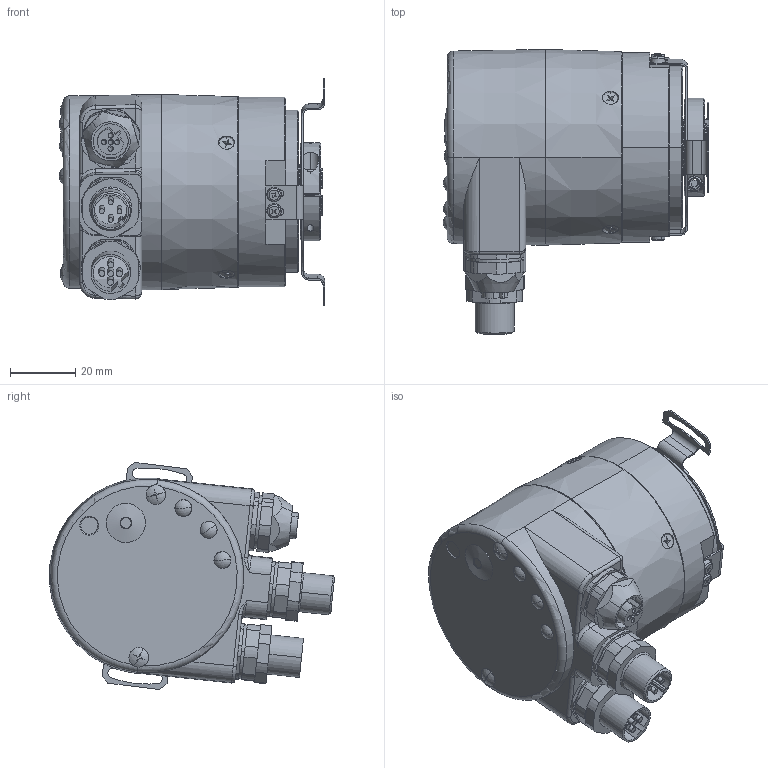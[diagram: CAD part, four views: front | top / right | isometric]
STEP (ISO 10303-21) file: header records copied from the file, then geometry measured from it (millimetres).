
FILE_DESCRIPTION (( 'STEP AP214' ), '1' );
FILE_NAME ('5878.5432.XXXX.STEP', '2008-06-03T07:17:17', ( 'admin' ), ( 'Fritz Kübler GmbH' ), 'SwSTEP 2.0', 'SolidWorks 2007', '' );
FILE_SCHEMA (( 'AUTOMOTIVE_DESIGN' ));
Length unit declared in the file: millimetre
Products named in the file (1): 5878.5432.XXXX
Bounding box: 81.17 x 87.19 x 69.44 mm (x, y, z)
Surface area: 33879.1 mm2 (no closed solid volume)
Topology: 0 solids, 35 shells, 657 faces, 1791 edges, 1156 vertices
Faces by surface type: plane 314, cylinder 237, cone 63, torus 23, sphere 11, bspline 9
Entity records: 28753 total; most frequent: CARTESIAN_POINT 4769, DIRECTION 3666, ORIENTED_EDGE 3216, EDGE_CURVE 1786, AXIS2_PLACEMENT_3D 1325, VERTEX_POINT 1156, VECTOR 1016, LINE 1016
